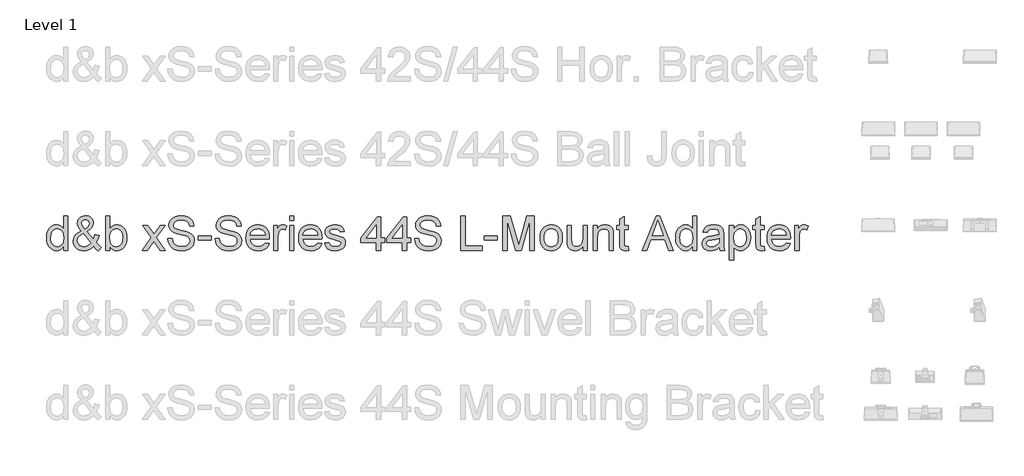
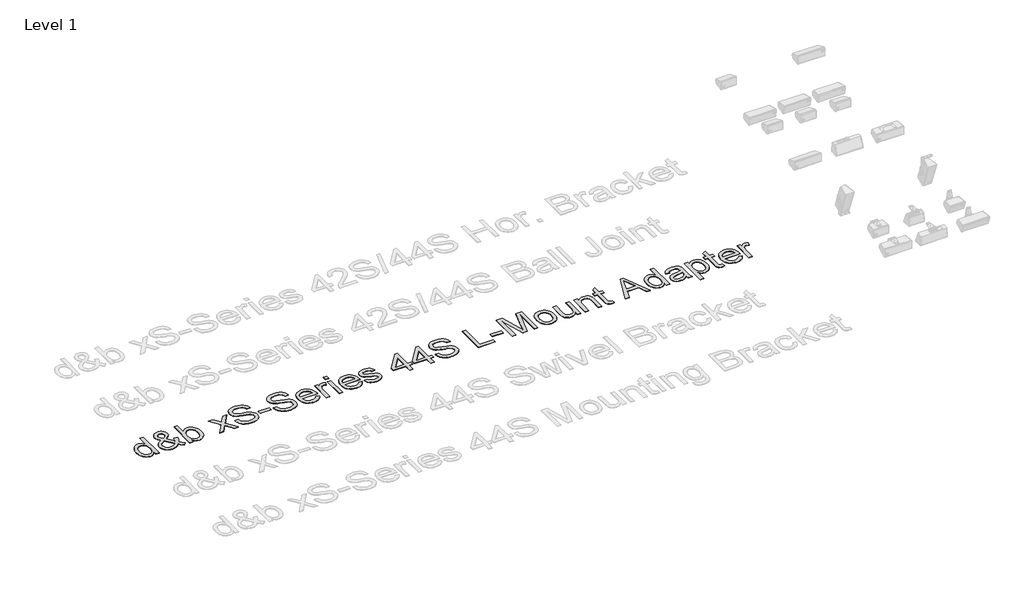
# One storey, part 27 of 55: 1 proxy.
"""IFC4 building model written with IfcOpenShell, lengths in millimetres."""

from ifc_helpers import new_model, si_unit, origin, origin_with_axes, place, context, project, spatial, polyline, outline, extrude, element, save

model = new_model("IFC4")

# Units and contexts
model_context = context("Model", 3, world=origin())
ifc_project = project(units=[si_unit("LENGTHUNIT", "METRE", prefix="MILLI")], contexts=[model_context])

# Site, building, storey
site = spatial("IfcSite", under=ifc_project)
building = spatial("IfcBuilding", under=site)
storey = spatial("IfcBuildingStorey", under=building, Name="Level 1", Elevation=0.0)

# Proxy
placement = place(None, origin())
element("IfcBuildingElementProxy", 1, Name="400mm Arial", ObjectType="400mm Arial", at=placement, inside=storey, context=model_context, shape_type="SweptSolid", body=[
    extrude(outline(polyline([(-20879.8211974, -8648.6945164), (-20879.8211974, -8601.3113154), (-20894.8491769, -8624.7883181), (-20913.0532043, -8641.5576057), (-20934.4332796, -8651.6191783), (-20958.9894028, -8654.9730358), (-20991.4611202, -8650.1169935), (-21021.1859854, -8635.5488665), (-21046.3491139, -8612.2864616), (-21065.1356211, -8581.3475858), (-21076.8342686, -8543.9830379), (-21080.7338177, -8501.4436165), (-21077.1408369, -8459.4314926), (-21066.3618944, -8421.4905962), (-21048.4092531, -8389.7791682), (-21023.2951755, -8366.4554497), (-20992.9203855, -8352.1080519), (-20959.1856065, -8347.325586), (-20934.6110892, -8350.7468885), (-20912.8815261, -8361.0107962), (-20894.4629008, -8376.7438829), (-20879.8211974, -8396.5727224), (-20879.8211974, -8246.8692758), (-20829.5930424, -8246.8692758), (-20829.5930424, -8648.6945164), (-20879.8211974, -8648.6945164)]), holes=[polyline([(-21030.5056627, -8501.2474128), (-21029.089317, -8525.6042665), (-21024.8402799, -8546.6808392), (-21017.7585515, -8564.4771307), (-21007.8441318, -8578.9931411), (-20983.1469871, -8598.3069458), (-20969.2717046, -8603.135397), (-20954.3786151, -8604.7448807), (-20939.415015, -8603.2089734), (-20925.6225058, -8598.6012514), (-20901.5507606, -8580.1703635), (-20892.0440767, -8566.2613584), (-20885.2535882, -8549.1088603), (-20879.8211974, -8505.0733855), (-20885.3516901, -8456.9298951), (-20892.2648059, -8438.3947739), (-20901.9431681, -8423.5507354), (-20913.6448812, -8412.1770504), (-20926.6280499, -8404.0529896), (-20940.8926743, -8399.1785532), (-20956.4387543, -8397.5537411), (-20971.6261493, -8399.1141738), (-20985.5014319, -8403.7954722), (-20998.064602, -8411.5976362), (-21009.3156597, -8422.5206658), (-21018.586286, -8436.8036843), (-21025.2081619, -8454.6858149), (-21030.5056627, -8501.2474128)])]), origin_with_axes(), (0.0, 0.0, 1.0), 5.0),
    extrude(outline(polyline([(-20523.809528, -8599.0549725), (-20549.3405384, -8623.5191252), (-20577.0788409, -8640.99352), (-20607.0734862, -8651.4781569), (-20639.3735254, -8654.9730358), (-20668.6814577, -8652.3855991), (-20694.8010793, -8644.623289), (-20717.7323904, -8631.6861055), (-20737.4753908, -8613.5740486), (-20750.308341, -8596.2038871), (-20759.4747341, -8577.8404442), (-20764.9745699, -8558.4837198), (-20766.8078485, -8538.1337141), (-20760.9094739, -8502.9396699), (-20743.2143499, -8471.3263438), (-20713.796053, -8443.3182613), (-20672.7281596, -8418.9399477), (-20694.6416638, -8390.5885086), (-20707.7995765, -8368.1231814), (-20714.3846642, -8348.9442668), (-20716.5796934, -8330.4520651), (-20714.8506481, -8312.8979626), (-20709.6635119, -8296.5333452), (-20701.018285, -8281.3582129), (-20688.9149674, -8267.3725657), (-20674.1935562, -8255.6555241), (-20657.6940487, -8247.2862088), (-20639.4164449, -8242.2646195), (-20619.3607448, -8240.5907564), (-20600.212487, -8242.1910431), (-20582.8913764, -8246.9919032), (-20567.397413, -8254.9933366), (-20553.7305969, -8266.1953433), (-20542.5715097, -8279.6414302), (-20534.6007332, -8294.3751041), (-20529.8182672, -8310.396365), (-20528.2241119, -8327.7052129), (-20532.9452642, -8355.68877), (-20547.108721, -8381.563137), (-20570.7144823, -8405.3283139), (-20603.7625482, -8426.9843007), (-20531.069066, -8517.5323224), (-20518.6837055, -8491.6579554), (-20509.3885538, -8461.9085647), (-20459.1603987, -8472.7978718), (-20474.6114425, -8519.3226815), (-20494.6732739, -8555.4977443), (-20466.1256311, -8588.8033276), (-20434.0463211, -8616.3209009), (-20471.7174374, -8654.9730358), (-20497.3465498, -8631.52669), (-20523.809528, -8599.0549725)]), holes=[polyline([(-20557.4584678, -8562.8553842), (-20647.1235727, -8450.9211558), (-20681.3733865, -8472.7733463), (-20702.305872, -8493.0068561), (-20713.0112381, -8512.3329235), (-20716.5796934, -8531.4627873), (-20711.6991256, -8555.1543878), (-20697.0574222, -8579.7289051), (-20686.2784798, -8590.6733944), (-20673.4639236, -8598.4908868), (-20658.6137537, -8603.1813823), (-20641.7279702, -8604.7448807), (-20619.0051256, -8601.8263502), (-20595.5710425, -8593.0707588), (-20574.1480476, -8579.6798541), (-20557.4584678, -8562.8553842)]), polyline([(-20629.1709314, -8395.2973981), (-20602.9041569, -8378.6323438), (-20587.8700461, -8364.1500559), (-20580.8067117, -8350.0601755), (-20578.452267, -8334.5723435), (-20581.5547385, -8317.0243723), (-20590.862153, -8303.0325938), (-20604.829406, -8293.8723321), (-20621.9113933, -8290.8189115), (-20639.3612626, -8293.8478066), (-20653.6473468, -8302.9344919), (-20663.1754905, -8316.3867102), (-20666.3515384, -8332.5122043), (-20662.0350563, -8350.9063041), (-20648.9875082, -8371.360543), (-20629.1709314, -8395.2973981)])]), origin_with_axes(), (0.0, 0.0, 1.0), 5.0),
    extrude(outline(polyline([(-20333.590011, -8648.6945164), (-20383.8181661, -8648.6945164), (-20383.8181661, -8246.8692758), (-20333.590011, -8246.8692758), (-20333.590011, -8395.8860093), (-20317.0721094, -8374.6408241), (-20298.4204923, -8359.4656918), (-20277.6351595, -8350.3606124), (-20254.7161112, -8347.325586), (-20228.8417442, -8350.0601755), (-20204.3898543, -8358.263944), (-20182.758393, -8371.4218567), (-20165.3453119, -8389.0188788), (-20151.6968898, -8410.883332), (-20141.3594058, -8436.8435381), (-20134.8478945, -8465.8203766), (-20132.6773907, -8496.734727), (-20134.9245365, -8532.4070178), (-20141.6659741, -8563.7873519), (-20152.9017034, -8590.8757295), (-20168.6317244, -8613.6721505), (-20187.5132678, -8631.7412878), (-20208.2035643, -8644.6478145), (-20230.702614, -8652.3917305), (-20255.0104168, -8654.9730358), (-20278.6836232, -8651.6437038), (-20299.671291, -8641.6557076), (-20317.9734203, -8625.0090473), (-20333.590011, -8601.7037229), (-20333.590011, -8648.6945164)]), holes=[polyline([(-20333.590011, -8499.0891717), (-20330.1564457, -8540.9786682), (-20319.8557498, -8569.3301073), (-20307.6849872, -8584.8240707), (-20293.5399244, -8595.8911874), (-20277.4205617, -8602.5314574), (-20259.3268989, -8604.7448807), (-20244.3050508, -8603.1139372), (-20230.3377977, -8598.2211067), (-20217.4251396, -8590.0663891), (-20205.5670767, -8578.6497845), (-20195.6526569, -8564.0019498), (-20188.5709285, -8546.1535416), (-20184.3218914, -8525.1045601), (-20182.9055458, -8500.8550053), (-20188.3379366, -8454.8942814), (-20195.1284251, -8437.1010555), (-20204.6351089, -8422.7659205), (-20216.0670419, -8411.735592), (-20228.6332778, -8403.8567859), (-20242.3338164, -8399.1295023), (-20257.1686579, -8397.5537411), (-20272.190506, -8399.1846846), (-20286.1577591, -8404.0775151), (-20299.0704171, -8412.2322327), (-20310.9284801, -8423.6488372), (-20320.8428999, -8438.1495192), (-20327.9246283, -8455.556469), (-20332.1736653, -8475.8696865), (-20333.590011, -8499.0891717)])]), origin_with_axes(), (0.0, 0.0, 1.0), 5.0),
    extrude(outline(polyline([(-19950.6003285, -8648.6945164), (-19843.2768878, -8500.2663941), (-19944.3218092, -8353.6041054), (-19884.0872638, -8353.6041054), (-19835.3306367, -8424.3355503), (-19812.4729021, -8457.5920827), (-19792.6563253, -8430.3197641), (-19737.1306695, -8353.6041054), (-19676.6999204, -8353.6041054), (-19782.8461387, -8500.364496), (-19680.623995, -8648.6945164), (-19740.9566422, -8648.6945164), (-19802.5646137, -8559.4218189), (-19813.7482263, -8543.0388074), (-19890.1695795, -8648.6945164), (-19950.6003285, -8648.6945164)])), origin_with_axes(), (0.0, 0.0, 1.0), 5.0),
    extrude(outline(polyline([(-19649.2313981, -8510.56709), (-19599.003243, -8510.56709), (-19593.2397584, -8538.4402825), (-19582.8164352, -8560.844296), (-19566.556051, -8578.6252591), (-19543.2813835, -8592.6293004), (-19514.8318425, -8601.7159856), (-19483.0468381, -8604.7448807), (-19455.063281, -8602.4517496), (-19430.5623402, -8595.5723563), (-19410.7089752, -8584.6830493), (-19396.6681457, -8570.3601769), (-19388.3172244, -8553.9158517), (-19385.533584, -8536.6621862), (-19387.6182486, -8519.849979), (-19393.8722425, -8505.3186402), (-19406.5764341, -8492.9210169), (-19428.0116917, -8482.5099565), (-19501.1466323, -8463.3310418), (-19549.1552327, -8450.639113), (-19579.8733793, -8438.5603208), (-19604.8770922, -8421.6622745), (-19622.5967416, -8401.1835101), (-19633.1549549, -8377.565486), (-19636.6743593, -8351.2496606), (-19632.3210891, -8321.8313637), (-19619.2612782, -8294.3996296), (-19597.8382834, -8271.1494875), (-19568.395461, -8254.2759667), (-19533.054264, -8244.012059), (-19493.9361452, -8240.5907564), (-19451.5561394, -8244.1714745), (-19414.4736342, -8254.9136288), (-19384.013005, -8272.59649), (-19361.4986269, -8296.999329), (-19347.249331, -8326.6015669), (-19341.5839483, -8359.8826247), (-19391.8121033, -8359.8826247), (-19401.0336787, -8329.9125049), (-19409.3968627, -8318.0544419), (-19420.2616443, -8308.2810436), (-19450.3053406, -8295.1844445), (-19491.9741079, -8290.8189115), (-19534.6238939, -8295.1353936), (-19550.9271976, -8300.5309962), (-19563.8827752, -8308.0848398), (-19580.805347, -8327.1411272), (-19586.4462043, -8349.7781326), (-19582.4485532, -8369.0796746), (-19570.4556002, -8384.6042948), (-19542.1041611, -8398.4857088), (-19488.4424407, -8412.6614283), (-19433.0639377, -8426.1259093), (-19399.5621507, -8437.8736077), (-19370.9286687, -8456.0960292), (-19350.9526764, -8478.5858819), (-19339.2172408, -8505.097911), (-19335.3054289, -8535.3868619), (-19339.805852, -8566.3502632), (-19353.3071212, -8595.4742545), (-19375.2574136, -8620.5392811), (-19405.1049061, -8639.3257883), (-19440.9979261, -8651.0612239), (-19481.0848008, -8654.9730358), (-19530.2951491, -8650.7546556), (-19570.7989567, -8638.099515), (-19603.0622077, -8616.958563), (-19627.5508858, -8587.2827487), (-19643.2717098, -8551.1322113), (-19649.2313981, -8510.56709)])), origin_with_axes(), (0.0, 0.0, 1.0), 5.0),
    extrude(outline(polyline([(-19291.3557932, -8529.4026481), (-19291.3557932, -8479.174493), (-19134.3928086, -8479.174493), (-19134.3928086, -8529.4026481), (-19291.3557932, -8529.4026481)])), origin_with_axes(), (0.0, 0.0, 1.0), 5.0),
    extrude(outline(polyline([(-19090.4431729, -8510.56709), (-19040.2150178, -8510.56709), (-19034.4515332, -8538.4402825), (-19024.02821, -8560.844296), (-19007.7678258, -8578.6252591), (-18984.4931583, -8592.6293004), (-18956.0436173, -8601.7159856), (-18924.2586129, -8604.7448807), (-18896.2750558, -8602.4517496), (-18871.774115, -8595.5723563), (-18851.9207499, -8584.6830493), (-18837.8799205, -8570.3601769), (-18829.5289992, -8553.9158517), (-18826.7453587, -8536.6621862), (-18828.8300234, -8519.849979), (-18835.0840173, -8505.3186402), (-18847.7882089, -8492.9210169), (-18869.2234665, -8482.5099565), (-18942.3584071, -8463.3310418), (-18990.3670075, -8450.639113), (-19021.0851541, -8438.5603208), (-19046.088867, -8421.6622745), (-19063.8085164, -8401.1835101), (-19074.3667297, -8377.565486), (-19077.8861341, -8351.2496606), (-19073.5328638, -8321.8313637), (-19060.473053, -8294.3996296), (-19039.0500582, -8271.1494875), (-19009.6072358, -8254.2759667), (-18974.2660388, -8244.012059), (-18935.14792, -8240.5907564), (-18892.7679141, -8244.1714745), (-18855.685409, -8254.9136288), (-18825.2247798, -8272.59649), (-18802.7104017, -8296.999329), (-18788.4611058, -8326.6015669), (-18782.7957231, -8359.8826247), (-18833.0238781, -8359.8826247), (-18842.2454535, -8329.9125049), (-18850.6086375, -8318.0544419), (-18861.4734191, -8308.2810436), (-18891.5171154, -8295.1844445), (-18933.1858827, -8290.8189115), (-18975.8356687, -8295.1353936), (-18992.1389724, -8300.5309962), (-19005.09455, -8308.0848398), (-19022.0171218, -8327.1411272), (-19027.657979, -8349.7781326), (-19023.660328, -8369.0796746), (-19011.667375, -8384.6042948), (-18983.3159359, -8398.4857088), (-18929.6542155, -8412.6614283), (-18874.2757125, -8426.1259093), (-18840.7739255, -8437.8736077), (-18812.1404435, -8456.0960292), (-18792.1644512, -8478.5858819), (-18780.4290156, -8505.097911), (-18776.5172037, -8535.3868619), (-18781.0176267, -8566.3502632), (-18794.518896, -8595.4742545), (-18816.4691883, -8620.5392811), (-18846.3166809, -8639.3257883), (-18882.2097009, -8651.0612239), (-18922.2965756, -8654.9730358), (-18971.5069238, -8650.7546556), (-19012.0107315, -8638.099515), (-19044.2739825, -8616.958563), (-19068.7626606, -8587.2827487), (-19084.4834846, -8551.1322113), (-19090.4431729, -8510.56709)])), origin_with_axes(), (0.0, 0.0, 1.0), 5.0),
    extrude(outline(polyline([(-18500.850962, -8560.795245), (-18451.6038255, -8567.0737644), (-18459.1546035, -8586.7983707), (-18469.3480004, -8604.180795), (-18482.1840164, -8619.2210372), (-18497.6626513, -8631.9190974), (-18515.6244897, -8642.0051955), (-18535.9101161, -8649.2095512), (-18583.4527326, -8654.9730358), (-18614.618469, -8652.4867667), (-18642.3874282, -8645.0279592), (-18666.7596104, -8632.5966135), (-18687.7350155, -8615.1927294), (-18704.602405, -8593.300685), (-18716.6505403, -8567.4048582), (-18723.8794215, -8537.5052491), (-18726.2890486, -8503.6018575), (-18723.8548961, -8468.5488348), (-18716.5524385, -8437.6528785), (-18704.3816758, -8410.9139888), (-18687.342608, -8388.3321657), (-18666.4223852, -8370.3917871), (-18642.6081574, -8357.5772309), (-18615.8999246, -8349.8884972), (-18586.2976867, -8347.325586), (-18557.6488763, -8349.8823658), (-18531.7407868, -8357.5527054), (-18508.5734182, -8370.3366048), (-18488.1467704, -8388.2340638), (-18471.472519, -8410.766836), (-18459.5623394, -8437.4566748), (-18452.4162316, -8468.3035801), (-18450.0341957, -8503.3075519), (-18450.3285013, -8516.8456094), (-18676.0608935, -8516.8456094), (-18673.1515601, -8536.8890467), (-18667.3666157, -8554.4431493), (-18658.7060604, -8569.507917), (-18647.1698942, -8582.0833498), (-18633.3957791, -8591.9977696), (-18618.0213774, -8599.079498), (-18582.4717139, -8604.7448807), (-18555.7389556, -8602.1206558), (-18533.2245775, -8594.2479811), (-18514.9285796, -8580.6363473), (-18500.850962, -8560.795245)]), holes=[polyline([(-18676.0608935, -8466.6174543), (-18500.2623508, -8466.6174543), (-18507.0559049, -8440.0808997), (-18520.3732332, -8421.0981887), (-18534.0707061, -8410.7974929), (-18549.65664, -8403.439853), (-18567.1310348, -8399.025269), (-18586.4938904, -8397.5537411), (-18620.3512967, -8402.2503679), (-18648.3471166, -8416.3402483), (-18667.8080741, -8438.3028034), (-18676.0608935, -8466.6174543)])]), origin_with_axes(), (0.0, 0.0, 1.0), 5.0),
    extrude(outline(polyline([(-18399.8060406, -8648.6945164), (-18399.8060406, -8353.6041054), (-18355.8564049, -8353.6041054), (-18355.8564049, -8397.2594355), (-18339.6205462, -8371.9491542), (-18324.6600117, -8357.0376707), (-18309.6504263, -8349.7536071), (-18293.2674148, -8347.325586), (-18268.2514391, -8351.2006097), (-18242.843056, -8362.8256807), (-18259.618475, -8407.8544369), (-18277.2768108, -8400.128915), (-18294.9351465, -8397.5537411), (-18309.9324692, -8400.0308132), (-18323.3356365, -8407.4620295), (-18334.1636299, -8419.2833042), (-18341.4354307, -8434.9305518), (-18347.5422718, -8462.9876853), (-18349.5778855, -8493.5954673), (-18349.5778855, -8648.6945164), (-18399.8060406, -8648.6945164)])), origin_with_axes(), (0.0, 0.0, 1.0), 5.0),
    extrude(outline(polyline([(-18211.4504591, -8297.0974309), (-18211.4504591, -8246.8692758), (-18161.222304, -8246.8692758), (-18161.222304, -8297.0974309), (-18211.4504591, -8297.0974309)])), origin_with_axes(), (0.0, 0.0, 1.0), 5.0),
    extrude(outline(polyline([(-18211.4504591, -8648.6945164), (-18211.4504591, -8353.6041054), (-18161.222304, -8353.6041054), (-18161.222304, -8648.6945164), (-18211.4504591, -8648.6945164)])), origin_with_axes(), (0.0, 0.0, 1.0), 5.0),
    extrude(outline(polyline([(-17879.2775429, -8560.795245), (-17830.0304065, -8567.0737644), (-17837.5811844, -8586.7983707), (-17847.7745814, -8604.180795), (-17860.6105973, -8619.2210372), (-17876.0892323, -8631.9190974), (-17894.0510707, -8642.0051955), (-17914.336697, -8649.2095512), (-17961.8793136, -8654.9730358), (-17993.0450499, -8652.4867667), (-18020.8140092, -8645.0279592), (-18045.1861914, -8632.5966135), (-18066.1615965, -8615.1927294), (-18083.0289859, -8593.300685), (-18095.0771213, -8567.4048582), (-18102.3060025, -8537.5052491), (-18104.7156295, -8503.6018575), (-18102.281477, -8468.5488348), (-18094.9790194, -8437.6528785), (-18082.8082567, -8410.9139888), (-18065.769189, -8388.3321657), (-18044.8489662, -8370.3917871), (-18021.0347384, -8357.5772309), (-17994.3265055, -8349.8884972), (-17964.7242676, -8347.325586), (-17936.0754573, -8349.8823658), (-17910.1673678, -8357.5527054), (-17886.9999991, -8370.3366048), (-17866.5733513, -8388.2340638), (-17849.8990999, -8410.766836), (-17837.9889203, -8437.4566748), (-17830.8428126, -8468.3035801), (-17828.4607766, -8503.3075519), (-17828.7550822, -8516.8456094), (-18054.4874745, -8516.8456094), (-18051.578141, -8536.8890467), (-18045.7931967, -8554.4431493), (-18037.1326413, -8569.507917), (-18025.5964751, -8582.0833498), (-18011.8223601, -8591.9977696), (-17996.4479584, -8599.079498), (-17960.8982949, -8604.7448807), (-17934.1655366, -8602.1206558), (-17911.6511585, -8594.2479811), (-17893.3551606, -8580.6363473), (-17879.2775429, -8560.795245)]), holes=[polyline([(-18054.4874745, -8466.6174543), (-17878.6889317, -8466.6174543), (-17885.4824859, -8440.0808997), (-17898.7998141, -8421.0981887), (-17912.4972871, -8410.7974929), (-17928.0832209, -8403.439853), (-17945.5576157, -8399.025269), (-17964.9204714, -8397.5537411), (-17998.7778777, -8402.2503679), (-18026.7736975, -8416.3402483), (-18046.234655, -8438.3028034), (-18054.4874745, -8466.6174543)])]), origin_with_axes(), (0.0, 0.0, 1.0), 5.0),
    extrude(outline(polyline([(-17797.0681797, -8560.795245), (-17746.8400246, -8554.5167257), (-17738.918299, -8576.0010342), (-17723.5898825, -8591.7954345), (-17700.7566734, -8601.5075192), (-17670.3205696, -8604.7448807), (-17640.2523479, -8601.7772993), (-17619.1113959, -8592.874555), (-17606.6034081, -8579.9741597), (-17602.4340788, -8565.0136253), (-17606.6279335, -8552.2113318), (-17619.2094978, -8542.4501962), (-17670.9091808, -8528.1273239), (-17746.545719, -8503.5528066), (-17765.6878455, -8491.2042343), (-17779.5569967, -8474.858011), (-17787.9814944, -8455.556469), (-17790.7896603, -8434.3419406), (-17788.5333174, -8414.880983), (-17781.7642887, -8396.9160789), (-17771.0957109, -8381.1584668), (-17757.1407205, -8368.3193852), (-17725.2085633, -8353.4569526), (-17704.3251287, -8348.8584276), (-17681.9946916, -8347.325586), (-17649.302245, -8349.7903953), (-17620.8772295, -8357.1848234), (-17598.0194949, -8368.785369), (-17582.0288908, -8383.8685308), (-17571.4338893, -8403.5502176), (-17564.7629625, -8428.946338), (-17614.9911176, -8435.2248574), (-17621.3309506, -8419.4181943), (-17633.8757267, -8407.5110804), (-17652.748073, -8400.0430759), (-17678.070617, -8397.5537411), (-17706.9125654, -8399.9327113), (-17726.140531, -8407.069622), (-17736.9562617, -8417.3703179), (-17740.5615053, -8429.2406436), (-17734.5772915, -8443.8578215), (-17715.8398352, -8454.9433323), (-17672.5769125, -8465.6364356), (-17598.8533607, -8489.2789852), (-17579.3801404, -8500.5852252), (-17564.6158097, -8516.0607944), (-17555.3083952, -8535.7547439), (-17552.2059237, -8559.7161245), (-17555.8479555, -8584.4868455), (-17566.7740507, -8607.7860386), (-17584.5672766, -8627.7865564), (-17608.8107, -8642.6612517), (-17638.0941069, -8651.8950898), (-17671.0072827, -8654.9730358), (-17698.040478, -8653.4892451), (-17721.6523707, -8649.037873), (-17741.8429609, -8641.6189194), (-17758.6122485, -8631.2323844), (-17772.3097214, -8617.9273189), (-17783.2848676, -8601.7527738), (-17791.5376871, -8582.7087492), (-17797.0681797, -8560.795245)])), origin_with_axes(), (0.0, 0.0, 1.0), 5.0),
    extrude(outline(polyline([(-17188.0517994, -8648.6945164), (-17188.0517994, -8554.5167257), (-17370.1288616, -8554.5167257), (-17370.1288616, -8504.2885706), (-17175.4947607, -8253.1477952), (-17137.8236444, -8253.1477952), (-17137.8236444, -8504.2885706), (-17087.5954893, -8504.2885706), (-17087.5954893, -8554.5167257), (-17137.8236444, -8554.5167257), (-17137.8236444, -8648.6945164), (-17188.0517994, -8648.6945164)]), holes=[polyline([(-17188.0517994, -8504.2885706), (-17188.0517994, -8349.0914196), (-17308.3246864, -8504.2885706), (-17188.0517994, -8504.2885706)])]), origin_with_axes(), (0.0, 0.0, 1.0), 5.0),
    extrude(outline(polyline([(-16880.4043496, -8648.6945164), (-16880.4043496, -8554.5167257), (-17062.4814117, -8554.5167257), (-17062.4814117, -8504.2885706), (-16867.8473108, -8253.1477952), (-16830.1761945, -8253.1477952), (-16830.1761945, -8504.2885706), (-16779.9480394, -8504.2885706), (-16779.9480394, -8554.5167257), (-16830.1761945, -8554.5167257), (-16830.1761945, -8648.6945164), (-16880.4043496, -8648.6945164)]), holes=[polyline([(-16880.4043496, -8504.2885706), (-16880.4043496, -8349.0914196), (-17000.6772366, -8504.2885706), (-16880.4043496, -8504.2885706)])]), origin_with_axes(), (0.0, 0.0, 1.0), 5.0),
    extrude(outline(polyline([(-16735.9984038, -8510.56709), (-16685.7702487, -8510.56709), (-16680.0067641, -8538.4402825), (-16669.5834409, -8560.844296), (-16653.3230567, -8578.6252591), (-16630.0483891, -8592.6293004), (-16601.5988482, -8601.7159856), (-16569.8138438, -8604.7448807), (-16541.8302867, -8602.4517496), (-16517.3293458, -8595.5723563), (-16497.4759808, -8584.6830493), (-16483.4351513, -8570.3601769), (-16475.08423, -8553.9158517), (-16472.3005896, -8536.6621862), (-16474.3852543, -8519.849979), (-16480.6392482, -8505.3186402), (-16493.3434397, -8492.9210169), (-16514.7786973, -8482.5099565), (-16587.913638, -8463.3310418), (-16635.9222383, -8450.639113), (-16666.6403849, -8438.5603208), (-16691.6440979, -8421.6622745), (-16709.3637473, -8401.1835101), (-16719.9219606, -8377.565486), (-16723.441365, -8351.2496606), (-16719.0880947, -8321.8313637), (-16706.0282839, -8294.3996296), (-16684.605289, -8271.1494875), (-16655.1624667, -8254.2759667), (-16619.8212697, -8244.012059), (-16580.7031509, -8240.5907564), (-16538.323145, -8244.1714745), (-16501.2406399, -8254.9136288), (-16470.7800107, -8272.59649), (-16448.2656326, -8296.999329), (-16434.0163367, -8326.6015669), (-16428.3509539, -8359.8826247), (-16478.579109, -8359.8826247), (-16487.8006843, -8329.9125049), (-16496.1638684, -8318.0544419), (-16507.02865, -8308.2810436), (-16537.0723462, -8295.1844445), (-16578.7411136, -8290.8189115), (-16621.3908995, -8295.1353936), (-16637.6942033, -8300.5309962), (-16650.6497809, -8308.0848398), (-16667.5723527, -8327.1411272), (-16673.2132099, -8349.7781326), (-16669.2155589, -8369.0796746), (-16657.2226059, -8384.6042948), (-16628.8711668, -8398.4857088), (-16575.2094464, -8412.6614283), (-16519.8309434, -8426.1259093), (-16486.3291564, -8437.8736077), (-16457.6956744, -8456.0960292), (-16437.7196821, -8478.5858819), (-16425.9842464, -8505.097911), (-16422.0724345, -8535.3868619), (-16426.5728576, -8566.3502632), (-16440.0741268, -8595.4742545), (-16462.0244192, -8620.5392811), (-16491.8719118, -8639.3257883), (-16527.7649318, -8651.0612239), (-16567.8518065, -8654.9730358), (-16617.0621547, -8650.7546556), (-16657.5659624, -8638.099515), (-16689.8292134, -8616.958563), (-16714.3178915, -8587.2827487), (-16730.0387154, -8551.1322113), (-16735.9984038, -8510.56709)])), origin_with_axes(), (0.0, 0.0, 1.0), 5.0),
    extrude(outline(polyline([(-16189.7672173, -8648.6945164), (-16189.7672173, -8246.8692758), (-16139.5390622, -8246.8692758), (-16139.5390622, -8598.4663614), (-15938.6264419, -8598.4663614), (-15938.6264419, -8648.6945164), (-16189.7672173, -8648.6945164)])), origin_with_axes(), (0.0, 0.0, 1.0), 5.0),
    extrude(outline(polyline([(-15913.5123644, -8529.4026481), (-15913.5123644, -8479.174493), (-15756.5493798, -8479.174493), (-15756.5493798, -8529.4026481), (-15913.5123644, -8529.4026481)])), origin_with_axes(), (0.0, 0.0, 1.0), 5.0),
    extrude(outline(polyline([(-15693.764186, -8648.6945164), (-15693.764186, -8246.8692758), (-15607.6307482, -8246.8692758), (-15525.2251812, -8530.0893612), (-15508.5478641, -8589.244786), (-15490.5952228, -8525.1842679), (-15409.7592857, -8246.8692758), (-15323.3315423, -8246.8692758), (-15323.3315423, -8648.6945164), (-15373.5596974, -8648.6945164), (-15373.5596974, -8297.0974309), (-15474.5065168, -8648.6945164), (-15542.4911095, -8648.6945164), (-15643.5360309, -8297.0974309), (-15643.5360309, -8648.6945164), (-15693.764186, -8648.6945164)])), origin_with_axes(), (0.0, 0.0, 1.0), 5.0),
    extrude(outline(polyline([(-15254.2678291, -8501.1493109), (-15251.5516337, -8462.932503), (-15243.4030475, -8430.000933), (-15229.8220705, -8402.3546011), (-15210.8087027, -8379.9935072), (-15191.6665762, -8365.7012916), (-15170.5378869, -8355.4925663), (-15147.4226349, -8349.3673311), (-15122.3208201, -8347.325586), (-15094.6101088, -8349.8118551), (-15069.5542793, -8357.2706626), (-15047.1533314, -8369.7020083), (-15027.4072654, -8387.1058924), (-15011.2909683, -8408.8937036), (-14999.7793275, -8434.4768306), (-14992.8723431, -8463.8552736), (-14990.5700149, -8497.0290325), (-14994.6412423, -8547.7722224), (-15006.8549246, -8586.3998319), (-15026.8554424, -8615.3276195), (-15054.2871765, -8636.9713435), (-15086.8692585, -8650.4726127), (-15122.3208201, -8654.9730358), (-15150.4362016, -8652.4959637), (-15175.7250231, -8645.0647474), (-15198.1872846, -8632.6793869), (-15217.8229861, -8615.3398822), (-15233.7676049, -8593.3405389), (-15245.1566183, -8566.9756626), (-15251.9900264, -8536.2452532), (-15254.2678291, -8501.1493109)]), holes=[polyline([(-15204.039674, -8501.051209), (-15202.5865401, -8525.4141942), (-15198.2271385, -8546.5091609), (-15190.961469, -8564.3361093), (-15180.7895319, -8578.8950392), (-15168.4164341, -8590.2043449), (-15154.5472829, -8598.2824204), (-15139.1820782, -8603.1292656), (-15122.3208201, -8604.7448807), (-15105.5454011, -8603.1200686), (-15090.2415101, -8598.2456322), (-15076.4091471, -8590.1215714), (-15064.0483121, -8578.7478864), (-15053.8763749, -8564.0448693), (-15046.6107055, -8545.9328124), (-15042.2513039, -8524.4117157), (-15040.79817, -8499.4815792), (-15042.2605009, -8475.8911462), (-15046.6474937, -8455.3480025), (-15053.9591484, -8437.8521479), (-15064.1954649, -8423.4035826), (-15076.6022852, -8412.0942769), (-15090.4254511, -8404.0162014), (-15105.6649628, -8399.1693561), (-15122.3208201, -8397.5537411), (-15139.1820782, -8399.1632248), (-15154.5472829, -8403.991676), (-15168.4164341, -8412.0390946), (-15180.7895319, -8423.3054807), (-15190.961469, -8437.8214911), (-15198.2271385, -8455.6177826), (-15202.5865401, -8476.6943553), (-15204.039674, -8501.051209)])]), origin_with_axes(), (0.0, 0.0, 1.0), 5.0),
    extrude(outline(polyline([(-14745.7077589, -8648.6945164), (-14745.7077589, -8597.975852), (-14763.8811295, -8622.9121199), (-14785.0466069, -8640.7237399), (-14809.2041913, -8651.4107118), (-14836.3538825, -8654.9730358), (-14860.8180352, -8652.4714382), (-14883.5899307, -8644.9666455), (-14902.695269, -8633.684931), (-14916.15975, -8619.852568), (-14925.2219098, -8603.0526236), (-14931.1202845, -8582.8681648), (-14934.0633404, -8536.1716768), (-14934.0633404, -8353.6041054), (-14883.8351854, -8353.6041054), (-14883.8351854, -8512.5291273), (-14880.7940275, -8563.738301), (-14873.4731758, -8580.8202883), (-14860.9283998, -8593.8065227), (-14843.9935653, -8602.0102912), (-14823.5025382, -8604.7448807), (-14801.8342886, -8601.9489776), (-14781.5639907, -8593.5612681), (-14764.8498854, -8580.3543045), (-14753.8502137, -8563.1006389), (-14747.7433726, -8539.4703521), (-14745.7077589, -8507.1335247), (-14745.7077589, -8353.6041054), (-14695.4796038, -8353.6041054), (-14695.4796038, -8648.6945164), (-14745.7077589, -8648.6945164)])), origin_with_axes(), (0.0, 0.0, 1.0), 5.0),
    extrude(outline(polyline([(-14626.4158906, -8648.6945164), (-14626.4158906, -8353.6041054), (-14576.1877355, -8353.6041054), (-14576.1877355, -8394.8068888), (-14558.7378662, -8374.0338188), (-14537.7808552, -8359.1959117), (-14513.3167026, -8350.2931674), (-14485.3454082, -8347.325586), (-14460.5869499, -8349.7168189), (-14437.9131563, -8356.8905179), (-14419.0040217, -8367.9515032), (-14405.5395407, -8382.0045954), (-14396.4038045, -8399.0130063), (-14390.4809044, -8418.9399477), (-14387.832154, -8467.5003711), (-14387.832154, -8648.6945164), (-14438.0603091, -8648.6945164), (-14438.0603091, -8474.2693998), (-14439.5073116, -8448.2969309), (-14443.8483191, -8429.8292548), (-14451.8558839, -8416.5977657), (-14464.3025581, -8406.333858), (-14480.2563739, -8399.7487703), (-14498.7853638, -8397.5537411), (-14528.2036606, -8402.4833598), (-14553.28095, -8417.272216), (-14563.3026687, -8429.3448768), (-14570.4610391, -8445.8443843), (-14574.7560614, -8466.7707384), (-14576.1877355, -8492.1239393), (-14576.1877355, -8648.6945164), (-14626.4158906, -8648.6945164)])), origin_with_axes(), (0.0, 0.0, 1.0), 5.0),
    extrude(outline(polyline([(-14212.0336112, -8606.8050199), (-14205.7550919, -8650.1660444), (-14243.3281063, -8654.9730358), (-14267.4366397, -8652.8883712), (-14285.4138066, -8646.6343773), (-14298.1179981, -8636.995869), (-14306.4076057, -8624.7576613), (-14310.9693425, -8603.7393366), (-14312.4899214, -8567.7604775), (-14312.4899214, -8403.8322604), (-14350.1610377, -8403.8322604), (-14350.1610377, -8353.6041054), (-14312.4899214, -8353.6041054), (-14312.4899214, -8281.8916418), (-14262.2617663, -8252.3629803), (-14262.2617663, -8353.6041054), (-14212.0336112, -8353.6041054), (-14212.0336112, -8403.8322604), (-14262.2617663, -8403.8322604), (-14262.2617663, -8566.2889495), (-14259.613016, -8592.187842), (-14251.0291027, -8601.3603664), (-14233.9103272, -8604.7448807), (-14212.0336112, -8606.8050199)])), origin_with_axes(), (0.0, 0.0, 1.0), 5.0),
    extrude(outline(polyline([(-14045.2604401, -8648.6945164), (-13884.8638902, -8246.8692758), (-13842.0914769, -8246.8692758), (-13681.7930289, -8648.6945164), (-13734.866138, -8648.6945164), (-13780.777811, -8523.1241287), (-13946.3737598, -8523.1241287), (-13992.2854328, -8648.6945164), (-14045.2604401, -8648.6945164)]), holes=[polyline([(-13927.9306091, -8472.8959737), (-13799.1228599, -8472.8959737), (-13835.4205501, -8374.1073952), (-13863.5757854, -8297.0974309), (-13888.5917611, -8365.4744311), (-13927.9306091, -8472.8959737)])]), origin_with_axes(), (0.0, 0.0, 1.0), 5.0),
    extrude(outline(polyline([(-13452.3327657, -8648.6945164), (-13452.3327657, -8601.3113154), (-13467.3607452, -8624.7883181), (-13485.5647726, -8641.5576057), (-13506.9448479, -8651.6191783), (-13531.5009711, -8654.9730358), (-13563.9726885, -8650.1169935), (-13593.6975538, -8635.5488665), (-13618.8606822, -8612.2864616), (-13637.6471894, -8581.3475858), (-13649.3458369, -8543.9830379), (-13653.245386, -8501.4436165), (-13649.6524052, -8459.4314926), (-13638.8734628, -8421.4905962), (-13620.9208214, -8389.7791682), (-13595.8067439, -8366.4554497), (-13565.4319538, -8352.1080519), (-13531.6971748, -8347.325586), (-13507.1226576, -8350.7468885), (-13485.3930944, -8361.0107962), (-13466.9744692, -8376.7438829), (-13452.3327657, -8396.5727224), (-13452.3327657, -8246.8692758), (-13402.1046107, -8246.8692758), (-13402.1046107, -8648.6945164), (-13452.3327657, -8648.6945164)]), holes=[polyline([(-13603.017231, -8501.2474128), (-13601.6008853, -8525.6042665), (-13597.3518482, -8546.6808392), (-13590.2701198, -8564.4771307), (-13580.3557001, -8578.9931411), (-13555.6585555, -8598.3069458), (-13541.7832729, -8603.135397), (-13526.8901834, -8604.7448807), (-13511.9265833, -8603.2089734), (-13498.1340741, -8598.6012514), (-13474.0623289, -8580.1703635), (-13464.555645, -8566.2613584), (-13457.7651565, -8549.1088603), (-13452.3327657, -8505.0733855), (-13457.8632584, -8456.9298951), (-13464.7763742, -8438.3947739), (-13474.4547364, -8423.5507354), (-13486.1564495, -8412.1770504), (-13499.1396183, -8404.0529896), (-13513.4042426, -8399.1785532), (-13528.9503226, -8397.5537411), (-13544.1377176, -8399.1141738), (-13558.0130002, -8403.7954722), (-13570.5761704, -8411.5976362), (-13581.827228, -8422.5206658), (-13591.0978543, -8436.8036843), (-13597.7197302, -8454.6858149), (-13603.017231, -8501.2474128)])]), origin_with_axes(), (0.0, 0.0, 1.0), 5.0),
    extrude(outline(polyline([(-13138.4067965, -8611.0234001), (-13162.4049653, -8631.6002664), (-13187.1143727, -8645.0647474), (-13213.0991043, -8652.4959637), (-13240.9232458, -8654.9730358), (-13263.2874055, -8653.4831137), (-13282.8985815, -8649.0133475), (-13299.7567739, -8641.5637371), (-13313.8619828, -8631.1342825), (-13324.9996102, -8618.3871714), (-13332.9550583, -8603.9845913), (-13337.7283272, -8587.9265422), (-13339.3194168, -8570.2130241), (-13336.9159211, -8549.3909032), (-13329.705434, -8530.4817686), (-13318.583135, -8514.2949609), (-13304.4442037, -8501.6398202), (-13287.8282002, -8492.0748883), (-13269.2746849, -8485.1587068), (-13225.8155586, -8477.6048632), (-13174.4592321, -8469.6586121), (-13138.7011021, -8460.3389349), (-13138.4067965, -8449.1553222), (-13141.8648873, -8426.739046), (-13152.2391595, -8412.0728171), (-13175.4402507, -8401.1835101), (-13207.7648153, -8397.5537411), (-13237.6858843, -8399.9694995), (-13258.5815816, -8407.2167748), (-13272.8308776, -8420.6199422), (-13282.8127424, -8441.5033767), (-13333.0408974, -8435.2248574), (-13324.3220942, -8407.7563351), (-13311.3113343, -8386.1739247), (-13292.7946072, -8369.6682858), (-13267.5579023, -8357.4300781), (-13236.6926029, -8349.851709), (-13201.2900922, -8347.325586), (-13167.3345841, -8349.5574034), (-13140.4178848, -8356.2528557), (-13120.1230614, -8366.3205597), (-13106.0331809, -8378.669132), (-13096.6889783, -8393.9362348), (-13090.6311881, -8412.7595302), (-13088.1786414, -8456.7091659), (-13088.1786414, -8519.2000541), (-13085.627993, -8606.4616634), (-13075.6216027, -8648.6945164), (-13125.8497578, -8648.6945164), (-13133.8941107, -8631.2323844), (-13138.4067965, -8611.0234001)]), holes=[polyline([(-13138.4067965, -8510.56709), (-13172.1538382, -8518.930274), (-13219.4389373, -8525.9690828), (-13262.652809, -8534.1115377), (-13273.8977353, -8539.6788185), (-13282.2241312, -8547.3552895), (-13287.3744791, -8556.5523394), (-13289.0912617, -8566.681357), (-13285.3511281, -8581.617366), (-13274.1307273, -8593.8555737), (-13255.6753139, -8602.022554), (-13230.2301425, -8604.7448807), (-13203.2521295, -8601.7405111), (-13179.4133763, -8592.7274022), (-13160.0873088, -8579.4468622), (-13146.6473532, -8563.6401991), (-13140.6876649, -8547.3552895), (-13138.7011021, -8524.7918605), (-13138.4067965, -8510.56709)])]), origin_with_axes(), (0.0, 0.0, 1.0), 5.0),
    extrude(outline(polyline([(-13019.1149282, -8761.7078653), (-13019.1149282, -8353.6041054), (-12968.8867731, -8353.6041054), (-12968.8867731, -8402.8512418), (-12952.5037616, -8378.5587674), (-12934.1587128, -8361.2069999), (-12912.7725061, -8350.7959395), (-12887.2660212, -8347.325586), (-12853.2982503, -8352.1816283), (-12823.5979105, -8366.7497553), (-12799.4158007, -8390.1470502), (-12782.0027196, -8421.4905962), (-12771.4812945, -8458.4995249), (-12767.9741528, -8498.892968), (-12771.9350157, -8541.8493223), (-12783.8176041, -8580.2684653), (-12803.2417735, -8612.2006225), (-12829.827379, -8635.6960193), (-12860.7907802, -8650.1537817), (-12893.3483368, -8654.9730358), (-12916.4390634, -8651.747937), (-12937.0527178, -8642.0726405), (-12954.6987909, -8627.4677253), (-12968.8867731, -8609.4537703), (-12968.8867731, -8761.7078653), (-13019.1149282, -8761.7078653)]), holes=[polyline([(-12968.8867731, -8503.5037557), (-12963.4543824, -8548.5325119), (-12956.6638939, -8565.9701184), (-12947.15721, -8580.0232107), (-12923.1099902, -8598.5644632), (-12909.3481379, -8603.1997764), (-12894.4274573, -8604.7448807), (-12879.2921789, -8603.1445941), (-12865.2789406, -8598.343734), (-12852.3877423, -8590.3423006), (-12840.6185842, -8579.1402939), (-12830.8114633, -8564.5782982), (-12823.806377, -8546.4968982), (-12819.6033252, -8524.8960937), (-12818.2023079, -8499.7758848), (-12823.6714869, -8454.9923832), (-12830.5079607, -8437.4198866), (-12840.0790239, -8423.0602261), (-12864.0894555, -8403.9303623), (-12877.6949579, -8399.1478964), (-12892.3673182, -8397.5537411), (-12906.9936931, -8399.2490639), (-12920.7555454, -8404.3350325), (-12945.685682, -8424.6789068), (-12955.8361594, -8439.777397), (-12963.0865004, -8457.9477019), (-12967.4367049, -8479.1898215), (-12968.8867731, -8503.5037557)])]), origin_with_axes(), (0.0, 0.0, 1.0), 5.0),
    extrude(outline(polyline([(-12604.7326489, -8606.8050199), (-12598.4541295, -8650.1660444), (-12636.0271439, -8654.9730358), (-12660.1356773, -8652.8883712), (-12678.1128442, -8646.6343773), (-12690.8170357, -8636.995869), (-12699.1066434, -8624.7576613), (-12703.6683801, -8603.7393366), (-12705.188959, -8567.7604775), (-12705.188959, -8403.8322604), (-12742.8600753, -8403.8322604), (-12742.8600753, -8353.6041054), (-12705.188959, -8353.6041054), (-12705.188959, -8281.8916418), (-12654.9608039, -8252.3629803), (-12654.9608039, -8353.6041054), (-12604.7326489, -8353.6041054), (-12604.7326489, -8403.8322604), (-12654.9608039, -8403.8322604), (-12654.9608039, -8566.2889495), (-12652.3120536, -8592.187842), (-12643.7281403, -8601.3603664), (-12626.6093648, -8604.7448807), (-12604.7326489, -8606.8050199)])), origin_with_axes(), (0.0, 0.0, 1.0), 5.0),
    extrude(outline(polyline([(-12347.9019653, -8560.795245), (-12298.6548289, -8567.0737644), (-12306.2056068, -8586.7983707), (-12316.3990038, -8604.180795), (-12329.2350197, -8619.2210372), (-12344.7136547, -8631.9190974), (-12362.6754931, -8642.0051955), (-12382.9611194, -8649.2095512), (-12430.5037359, -8654.9730358), (-12461.6694723, -8652.4867667), (-12489.4384316, -8645.0279592), (-12513.8106137, -8632.5966135), (-12534.7860188, -8615.1927294), (-12551.6534083, -8593.300685), (-12563.7015437, -8567.4048582), (-12570.9304249, -8537.5052491), (-12573.3400519, -8503.6018575), (-12570.9058994, -8468.5488348), (-12563.6034418, -8437.6528785), (-12551.4326791, -8410.9139888), (-12534.3936114, -8388.3321657), (-12513.4733886, -8370.3917871), (-12489.6591608, -8357.5772309), (-12462.9509279, -8349.8884972), (-12433.34869, -8347.325586), (-12404.6998797, -8349.8823658), (-12378.7917902, -8357.5527054), (-12355.6244215, -8370.3366048), (-12335.1977737, -8388.2340638), (-12318.5235223, -8410.766836), (-12306.6133427, -8437.4566748), (-12299.4672349, -8468.3035801), (-12297.085199, -8503.3075519), (-12297.3795046, -8516.8456094), (-12523.1118969, -8516.8456094), (-12520.2025634, -8536.8890467), (-12514.417619, -8554.4431493), (-12505.7570637, -8569.507917), (-12494.2208975, -8582.0833498), (-12480.4467825, -8591.9977696), (-12465.0723808, -8599.079498), (-12429.5227173, -8604.7448807), (-12402.789959, -8602.1206558), (-12380.2755809, -8594.2479811), (-12361.979583, -8580.6363473), (-12347.9019653, -8560.795245)]), holes=[polyline([(-12523.1118969, -8466.6174543), (-12347.3133541, -8466.6174543), (-12354.1069083, -8440.0808997), (-12367.4242365, -8421.0981887), (-12381.1217095, -8410.7974929), (-12396.7076433, -8403.439853), (-12414.1820381, -8399.025269), (-12433.5448938, -8397.5537411), (-12467.4023001, -8402.2503679), (-12495.3981199, -8416.3402483), (-12514.8590774, -8438.3028034), (-12523.1118969, -8466.6174543)])]), origin_with_axes(), (0.0, 0.0, 1.0), 5.0),
    extrude(outline(polyline([(-12246.8570439, -8648.6945164), (-12246.8570439, -8353.6041054), (-12202.9074083, -8353.6041054), (-12202.9074083, -8397.2594355), (-12186.6715495, -8371.9491542), (-12171.7110151, -8357.0376707), (-12156.7014297, -8349.7536071), (-12140.3184181, -8347.325586), (-12115.3024425, -8351.2006097), (-12089.8940593, -8362.8256807), (-12106.6694783, -8407.8544369), (-12124.3278141, -8400.128915), (-12141.9861499, -8397.5537411), (-12156.9834725, -8400.0308132), (-12170.3866399, -8407.4620295), (-12181.2146333, -8419.2833042), (-12188.486434, -8434.9305518), (-12194.5932752, -8462.9876853), (-12196.6288889, -8493.5954673), (-12196.6288889, -8648.6945164), (-12246.8570439, -8648.6945164)])), origin_with_axes(), (0.0, 0.0, 1.0), 5.0),
])

save(model, "model.ifc")
